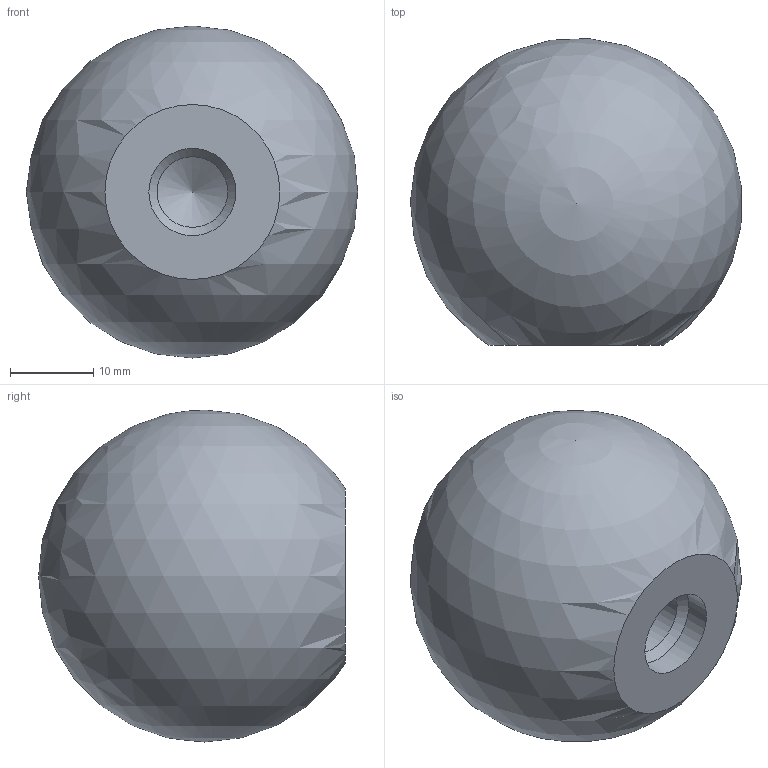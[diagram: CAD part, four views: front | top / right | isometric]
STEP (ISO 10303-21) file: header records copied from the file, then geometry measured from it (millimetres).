
FILE_DESCRIPTION (( 'STEP AP214' ), '1' );
FILE_NAME ('319-KU-40-M10-C.step', '2019-04-24T08:50:30', ( 'user' ), ( '' ), 'SwSTEP 2.0', 'SolidWorks 2019', '' );
FILE_SCHEMA (( 'AUTOMOTIVE_DESIGN' ));
Length unit declared in the file: millimetre
Products named in the file (1): 319-KU-40-M10-C
Bounding box: 39.9 x 36.95 x 40 mm (x, y, z)
Volume: 31799.4 mm3; surface area: 5492.9 mm2
Topology: 1 solids, 1 shells, 6 faces, 15 edges, 10 vertices
Faces by surface type: cone 2, cylinder 2, plane 1, sphere 1
Full cylindrical faces by diameter (mm): 8.5 x1, 10.5 x1
Entity records: 159 total; most frequent: DIRECTION 24, CARTESIAN_POINT 17, AXIS2_PLACEMENT_3D 12, EDGE_LOOP 10, ORIENTED_EDGE 10, FACE_OUTER_BOUND 8, ADVANCED_FACE 6, VERTEX_POINT 5
